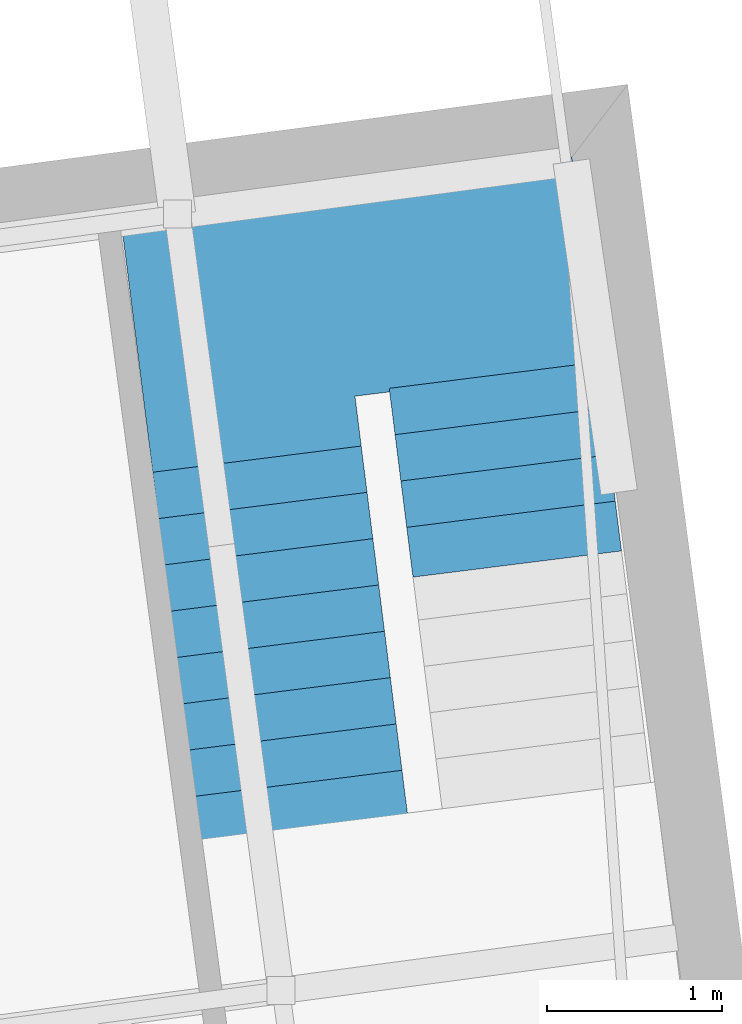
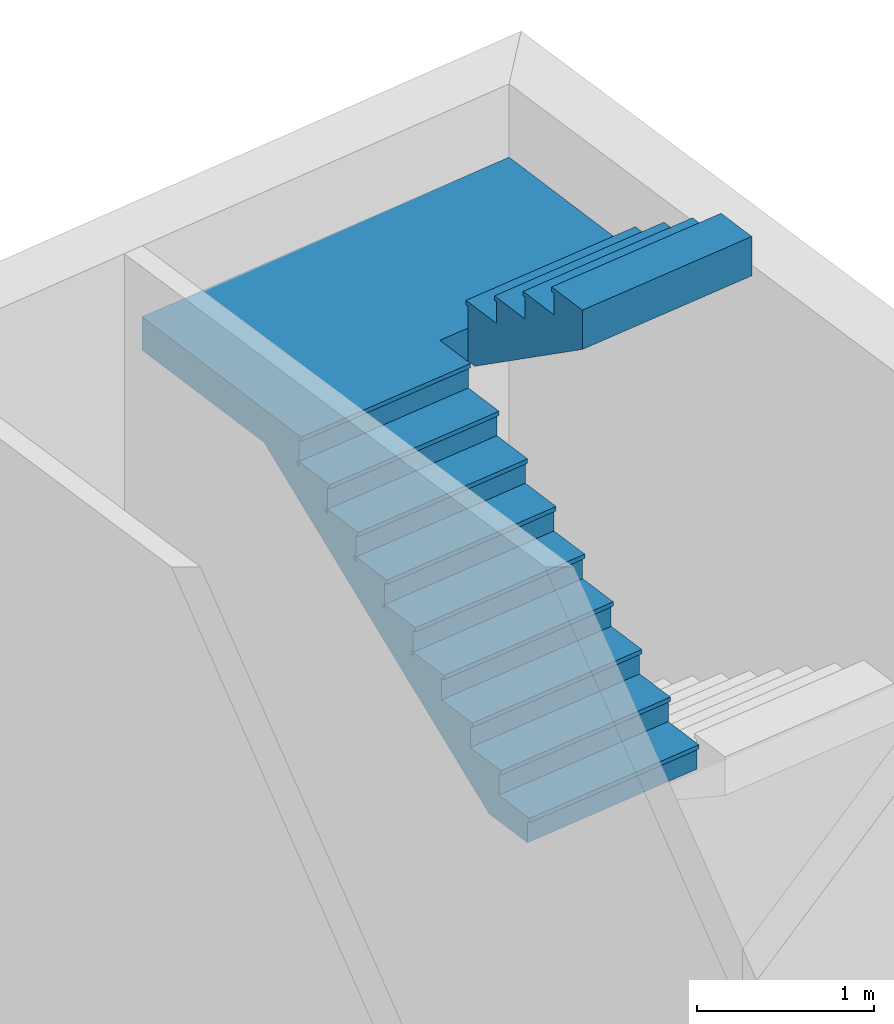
# One storey, part 38 of 40: 1 stair.
"""IFC2X3 building model written with IfcOpenShell, lengths in metres."""

from ifc_helpers import new_model, entity, si_unit, converted_unit, money_unit, direction, frame, origin_with_axes, place, context, subcontext, project, spatial, faceted_brep, material, element, save


model = new_model("IFC2X3")

# Units and contexts
model_context = context("Model", 3, precision=1e-05, world=origin_with_axes(), true_north=direction((0.0, 1.0)))
body_context = subcontext(model_context, "Body", "Model", "MODEL_VIEW")
ifc_project = project(units=[si_unit("LENGTHUNIT", "METRE"), si_unit("AREAUNIT", "SQUARE_METRE"), si_unit("VOLUMEUNIT", "CUBIC_METRE"), converted_unit("PLANEANGLEUNIT", "DEGREE", entity("IfcPlaneAngleMeasure", 0.0174532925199), si_unit("PLANEANGLEUNIT", "RADIAN"), dimensions=[0, 0, 0, 0, 0, 0, 0]), si_unit("SOLIDANGLEUNIT", "STERADIAN"), money_unit("EUR"), converted_unit("TIMEUNIT", "Year", entity("IfcTimeMeasure", 31556926.0), si_unit("TIMEUNIT", "SECOND"), dimensions=[0, 0, 0, 0, 0, 0, 0]), si_unit("MASSUNIT", "GRAM"), si_unit("THERMODYNAMICTEMPERATUREUNIT", "DEGREE_CELSIUS"), si_unit("LUMINOUSINTENSITYUNIT", "LUMEN")], contexts=[model_context])

# Site, building, storey
site_placement = place(None, origin_with_axes())
site = spatial("IfcSite", under=ifc_project, at=site_placement, Name="Undefined", CompositionType="ELEMENT")
building_placement = place(site_placement, origin_with_axes())
building = spatial("IfcBuilding", under=site, at=building_placement, Name="Undefined", CompositionType="ELEMENT")
storey_placement = place(building_placement, origin_with_axes())
storey = spatial("IfcBuildingStorey", under=building, at=storey_placement, Name="Rez de chauss\x8ee", CompositionType="ELEMENT", Elevation=0.0)

# Stair
ifc_material = material(Name="Concrete Block")
stair_placement = place(storey_placement, frame((64.8815616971, 23.589487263, 3.0), z_axis=(0.0, 0.0, 1.0), x_axis=(0.12477451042, -0.992185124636, 0.0)))
element("IfcStair", 1, at=stair_placement, inside=storey, material=ifc_material, Name="Stair_02", ObjectType="STAIR", ShapeType="NOTDEFINED", context=body_context, shape_type="Brep", body=[
    faceted_brep([(-0.358181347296, 0.0, 0.0), (-2.46103849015, 0.0, 1.38538461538), (-2.46103849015, 1.2, 1.38538461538), (-0.358181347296, 1.2, 0.0), (-0.02, 0.0, 0.0), (-0.02, 0.0, 0.149487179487), (-0.286666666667, 0.0, 0.149487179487), (-0.286666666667, 0.0, 0.328974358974), (-0.553333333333, 0.0, 0.328974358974), (-0.553333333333, 0.0, 0.508461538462), (-0.82, 0.0, 0.508461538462), (-0.82, 0.0, 0.687948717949), (-1.08666666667, 0.0, 0.687948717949), (-1.08666666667, 0.0, 0.867435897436), (-1.35333333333, 0.0, 0.867435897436), (-1.35333333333, 0.0, 1.04692307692), (-1.62, 0.0, 1.04692307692), (-1.62, 0.0, 1.22641025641), (-1.88666666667, 0.0, 1.22641025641), (-1.88666666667, 0.0, 1.4058974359), (-2.15333333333, 0.0, 1.4058974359), (-2.15333333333, 0.0, 1.58538461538), (-2.42, 0.0, 1.58538461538), (-3.6, 0.0, 1.58538461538), (-3.6, 0.0, 1.38538461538), (-3.6, 1.2, 1.38538461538), (-3.6, 1.2, 1.58538461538), (-2.42, 1.2, 1.58538461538), (-2.15333333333, 1.2, 1.58538461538), (-2.15333333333, 1.2, 1.4058974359), (-1.88666666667, 1.2, 1.4058974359), (-1.88666666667, 1.2, 1.22641025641), (-1.62, 1.2, 1.22641025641), (-1.62, 1.2, 1.04692307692), (-1.35333333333, 1.2, 1.04692307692), (-1.35333333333, 1.2, 0.867435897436), (-1.08666666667, 1.2, 0.867435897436), (-1.08666666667, 1.2, 0.687948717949), (-0.82, 1.2, 0.687948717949), (-0.82, 1.2, 0.508461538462), (-0.553333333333, 1.2, 0.508461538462), (-0.553333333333, 1.2, 0.328974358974), (-0.286666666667, 1.2, 0.328974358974), (-0.286666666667, 1.2, 0.149487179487), (-0.02, 1.2, 0.149487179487), (-0.02, 1.2, 0.0)], [[[0, 1, 2, 3]], [[0, 4, 5, 6, 7, 8, 9, 10, 11, 12, 13, 14, 15, 16, 17, 18, 19, 20, 21, 22, 23, 24, 1]], [[1, 24, 25, 2]], [[3, 2, 25, 26, 27, 28, 29, 30, 31, 32, 33, 34, 35, 36, 37, 38, 39, 40, 41, 42, 43, 44, 45]], [[4, 0, 3, 45]], [[5, 4, 45, 44]], [[6, 5, 44, 43]], [[7, 6, 43, 42]], [[8, 7, 42, 41]], [[9, 8, 41, 40]], [[10, 9, 40, 39]], [[11, 10, 39, 38]], [[12, 11, 38, 37]], [[13, 12, 37, 36]], [[14, 13, 36, 35]], [[15, 14, 35, 34]], [[16, 15, 34, 33]], [[17, 16, 33, 32]], [[18, 17, 32, 31]], [[19, 18, 31, 30]], [[20, 19, 30, 29]], [[21, 20, 29, 28]], [[22, 21, 28, 27]], [[23, 22, 27, 26]], [[24, 23, 26, 25]]]),
    faceted_brep([(-2.4, 1.2, 1.58538461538), (-2.4, 1.2, 1.38538461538), (-2.4, 1.4, 1.38538461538), (-2.4, 1.4, 1.58538461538), (-3.6, 1.2, 1.58538461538), (-3.6, 1.2, 1.38538461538), (-2.46103849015, 1.2, 1.38538461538), (-2.46103849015, 1.4, 1.38538461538), (-3.6, 1.4, 1.38538461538), (-3.6, 1.4, 1.58538461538)], [[[0, 1, 2, 3]], [[0, 4, 5, 6, 1]], [[1, 6, 7, 2]], [[3, 2, 7, 8, 9]], [[4, 0, 3, 9]], [[5, 4, 9, 8]], [[6, 5, 8, 7]]]),
    faceted_brep([(-2.4, 1.4, 1.58538461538), (-2.4, 1.4, 1.38538461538), (-2.4, 2.6, 1.38538461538), (-2.4, 2.6, 1.58538461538), (-3.6, 1.4, 1.58538461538), (-3.6, 1.4, 1.38538461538), (-3.6, 2.6, 1.38538461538), (-3.6, 2.6, 1.58538461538)], [[[0, 1, 2, 3]], [[0, 4, 5, 1]], [[1, 5, 6, 2]], [[3, 2, 6, 7]], [[4, 0, 3, 7]], [[5, 4, 7, 6]]]),
    faceted_brep([(-2.4, 1.4, 1.38538461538), (-2.4, 2.6, 1.38538461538), (-2.33896150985, 2.6, 1.38538461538), (-2.33896150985, 1.4, 1.38538461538), (-2.4, 1.4, 1.58538461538), (-2.4, 2.6, 1.58538461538), (-2.38, 2.6, 1.58538461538), (-2.38, 2.6, 1.76487179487), (-2.11333333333, 2.6, 1.76487179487), (-2.11333333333, 2.6, 1.94435897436), (-1.84666666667, 2.6, 1.94435897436), (-1.84666666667, 2.6, 2.12384615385), (-1.58, 2.6, 2.12384615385), (-1.58, 2.6, 2.30333333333), (-1.33333333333, 2.6, 2.30333333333), (-1.33333333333, 2.6, 2.06224973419), (-1.33333333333, 1.4, 2.06224973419), (-1.33333333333, 1.4, 2.30333333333), (-1.58, 1.4, 2.30333333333), (-1.58, 1.4, 2.12384615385), (-1.84666666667, 1.4, 2.12384615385), (-1.84666666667, 1.4, 1.94435897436), (-2.11333333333, 1.4, 1.94435897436), (-2.11333333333, 1.4, 1.76487179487), (-2.38, 1.4, 1.76487179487), (-2.38, 1.4, 1.58538461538)], [[[0, 1, 2, 3]], [[4, 5, 1, 0]], [[1, 5, 6, 7, 8, 9, 10, 11, 12, 13, 14, 15, 2]], [[3, 2, 15, 16]], [[0, 3, 16, 17, 18, 19, 20, 21, 22, 23, 24, 25, 4]], [[25, 6, 5, 4]], [[24, 7, 6, 25]], [[23, 8, 7, 24]], [[22, 9, 8, 23]], [[21, 10, 9, 22]], [[20, 11, 10, 21]], [[19, 12, 11, 20]], [[18, 13, 12, 19]], [[17, 14, 13, 18]], [[16, 15, 14, 17]]]),
    faceted_brep([(0.0, 0.0, 0.0), (-0.02, 0.0, 0.0), (-0.02, 1.2, 0.0), (0.0, 1.2, 0.0), (0.0, 0.0, 0.149487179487), (-0.02, 0.0, 0.149487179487), (-0.02, 1.2, 0.149487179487), (0.0, 1.2, 0.149487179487)], [[[0, 1, 2, 3]], [[0, 4, 5, 1]], [[1, 5, 6, 2]], [[3, 2, 6, 7]], [[4, 0, 3, 7]], [[5, 4, 7, 6]]]),
    faceted_brep([(-0.266666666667, 0.0, 0.179487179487), (-0.286666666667, 0.0, 0.179487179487), (-0.286666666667, 1.2, 0.179487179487), (-0.266666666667, 1.2, 0.179487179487), (-0.266666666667, 0.0, 0.328974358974), (-0.286666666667, 0.0, 0.328974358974), (-0.286666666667, 1.2, 0.328974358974), (-0.266666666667, 1.2, 0.328974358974)], [[[0, 1, 2, 3]], [[0, 4, 5, 1]], [[1, 5, 6, 2]], [[3, 2, 6, 7]], [[4, 0, 3, 7]], [[5, 4, 7, 6]]]),
    faceted_brep([(-0.533333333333, 0.0, 0.358974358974), (-0.553333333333, 0.0, 0.358974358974), (-0.553333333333, 1.2, 0.358974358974), (-0.533333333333, 1.2, 0.358974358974), (-0.533333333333, 0.0, 0.508461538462), (-0.553333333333, 0.0, 0.508461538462), (-0.553333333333, 1.2, 0.508461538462), (-0.533333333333, 1.2, 0.508461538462)], [[[0, 1, 2, 3]], [[0, 4, 5, 1]], [[1, 5, 6, 2]], [[3, 2, 6, 7]], [[4, 0, 3, 7]], [[5, 4, 7, 6]]]),
    faceted_brep([(-0.8, 0.0, 0.538461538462), (-0.82, 0.0, 0.538461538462), (-0.82, 1.2, 0.538461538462), (-0.8, 1.2, 0.538461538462), (-0.8, 0.0, 0.687948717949), (-0.82, 0.0, 0.687948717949), (-0.82, 1.2, 0.687948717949), (-0.8, 1.2, 0.687948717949)], [[[0, 1, 2, 3]], [[0, 4, 5, 1]], [[1, 5, 6, 2]], [[3, 2, 6, 7]], [[4, 0, 3, 7]], [[5, 4, 7, 6]]]),
    faceted_brep([(-1.06666666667, 0.0, 0.717948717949), (-1.08666666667, 0.0, 0.717948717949), (-1.08666666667, 1.2, 0.717948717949), (-1.06666666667, 1.2, 0.717948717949), (-1.06666666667, 0.0, 0.867435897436), (-1.08666666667, 0.0, 0.867435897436), (-1.08666666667, 1.2, 0.867435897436), (-1.06666666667, 1.2, 0.867435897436)], [[[0, 1, 2, 3]], [[0, 4, 5, 1]], [[1, 5, 6, 2]], [[3, 2, 6, 7]], [[4, 0, 3, 7]], [[5, 4, 7, 6]]]),
    faceted_brep([(-1.33333333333, 0.0, 0.897435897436), (-1.35333333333, 0.0, 0.897435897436), (-1.35333333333, 1.2, 0.897435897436), (-1.33333333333, 1.2, 0.897435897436), (-1.33333333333, 0.0, 1.04692307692), (-1.35333333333, 0.0, 1.04692307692), (-1.35333333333, 1.2, 1.04692307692), (-1.33333333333, 1.2, 1.04692307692)], [[[0, 1, 2, 3]], [[0, 4, 5, 1]], [[1, 5, 6, 2]], [[3, 2, 6, 7]], [[4, 0, 3, 7]], [[5, 4, 7, 6]]]),
    faceted_brep([(-1.6, 0.0, 1.07692307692), (-1.62, 0.0, 1.07692307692), (-1.62, 1.2, 1.07692307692), (-1.6, 1.2, 1.07692307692), (-1.6, 0.0, 1.22641025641), (-1.62, 0.0, 1.22641025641), (-1.62, 1.2, 1.22641025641), (-1.6, 1.2, 1.22641025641)], [[[0, 1, 2, 3]], [[0, 4, 5, 1]], [[1, 5, 6, 2]], [[3, 2, 6, 7]], [[4, 0, 3, 7]], [[5, 4, 7, 6]]]),
    faceted_brep([(-1.86666666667, 0.0, 1.25641025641), (-1.88666666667, 0.0, 1.25641025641), (-1.88666666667, 1.2, 1.25641025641), (-1.86666666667, 1.2, 1.25641025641), (-1.86666666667, 0.0, 1.4058974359), (-1.88666666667, 0.0, 1.4058974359), (-1.88666666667, 1.2, 1.4058974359), (-1.86666666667, 1.2, 1.4058974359)], [[[0, 1, 2, 3]], [[0, 4, 5, 1]], [[1, 5, 6, 2]], [[3, 2, 6, 7]], [[4, 0, 3, 7]], [[5, 4, 7, 6]]]),
    faceted_brep([(-2.13333333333, 0.0, 1.4358974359), (-2.15333333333, 0.0, 1.4358974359), (-2.15333333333, 1.2, 1.4358974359), (-2.13333333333, 1.2, 1.4358974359), (-2.13333333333, 0.0, 1.58538461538), (-2.15333333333, 0.0, 1.58538461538), (-2.15333333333, 1.2, 1.58538461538), (-2.13333333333, 1.2, 1.58538461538)], [[[0, 1, 2, 3]], [[0, 4, 5, 1]], [[1, 5, 6, 2]], [[3, 2, 6, 7]], [[4, 0, 3, 7]], [[5, 4, 7, 6]]]),
    faceted_brep([(-2.4, 1.4, 1.61538461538), (-2.4, 2.6, 1.61538461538), (-2.38, 2.6, 1.61538461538), (-2.38, 1.4, 1.61538461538), (-2.4, 1.4, 1.76487179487), (-2.4, 2.6, 1.76487179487), (-2.38, 2.6, 1.76487179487), (-2.38, 1.4, 1.76487179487)], [[[0, 1, 2, 3]], [[4, 5, 1, 0]], [[1, 5, 6, 2]], [[3, 2, 6, 7]], [[0, 3, 7, 4]], [[7, 6, 5, 4]]]),
    faceted_brep([(-2.13333333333, 1.4, 1.79487179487), (-2.13333333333, 2.6, 1.79487179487), (-2.11333333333, 2.6, 1.79487179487), (-2.11333333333, 1.4, 1.79487179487), (-2.13333333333, 1.4, 1.94435897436), (-2.13333333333, 2.6, 1.94435897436), (-2.11333333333, 2.6, 1.94435897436), (-2.11333333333, 1.4, 1.94435897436)], [[[0, 1, 2, 3]], [[4, 5, 1, 0]], [[1, 5, 6, 2]], [[3, 2, 6, 7]], [[0, 3, 7, 4]], [[7, 6, 5, 4]]]),
    faceted_brep([(-1.86666666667, 1.4, 1.97435897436), (-1.86666666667, 2.6, 1.97435897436), (-1.84666666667, 2.6, 1.97435897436), (-1.84666666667, 1.4, 1.97435897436), (-1.86666666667, 1.4, 2.12384615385), (-1.86666666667, 2.6, 2.12384615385), (-1.84666666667, 2.6, 2.12384615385), (-1.84666666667, 1.4, 2.12384615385)], [[[0, 1, 2, 3]], [[4, 5, 1, 0]], [[1, 5, 6, 2]], [[3, 2, 6, 7]], [[0, 3, 7, 4]], [[7, 6, 5, 4]]]),
    faceted_brep([(-1.6, 1.4, 2.15384615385), (-1.6, 2.6, 2.15384615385), (-1.58, 2.6, 2.15384615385), (-1.58, 1.4, 2.15384615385), (-1.6, 1.4, 2.30333333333), (-1.6, 2.6, 2.30333333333), (-1.58, 2.6, 2.30333333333), (-1.58, 1.4, 2.30333333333)], [[[0, 1, 2, 3]], [[4, 5, 1, 0]], [[1, 5, 6, 2]], [[3, 2, 6, 7]], [[0, 3, 7, 4]], [[7, 6, 5, 4]]]),
    faceted_brep([(0.02, 0.0, 0.149487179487), (-0.286666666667, 0.0, 0.149487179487), (-0.286666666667, 1.2, 0.149487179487), (0.02, 1.2, 0.149487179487), (0.02, 0.0, 0.179487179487), (-0.286666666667, 0.0, 0.179487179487), (-0.286666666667, 1.2, 0.179487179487), (0.02, 1.2, 0.179487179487)], [[[0, 1, 2, 3]], [[0, 4, 5, 1]], [[1, 5, 6, 2]], [[3, 2, 6, 7]], [[4, 0, 3, 7]], [[5, 4, 7, 6]]]),
    faceted_brep([(-0.246666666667, 0.0, 0.328974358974), (-0.553333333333, 0.0, 0.328974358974), (-0.553333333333, 1.2, 0.328974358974), (-0.246666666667, 1.2, 0.328974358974), (-0.246666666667, 0.0, 0.358974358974), (-0.553333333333, 0.0, 0.358974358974), (-0.553333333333, 1.2, 0.358974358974), (-0.246666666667, 1.2, 0.358974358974)], [[[0, 1, 2, 3]], [[0, 4, 5, 1]], [[1, 5, 6, 2]], [[3, 2, 6, 7]], [[4, 0, 3, 7]], [[5, 4, 7, 6]]]),
    faceted_brep([(-0.513333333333, 0.0, 0.508461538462), (-0.82, 0.0, 0.508461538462), (-0.82, 1.2, 0.508461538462), (-0.513333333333, 1.2, 0.508461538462), (-0.513333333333, 0.0, 0.538461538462), (-0.82, 0.0, 0.538461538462), (-0.82, 1.2, 0.538461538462), (-0.513333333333, 1.2, 0.538461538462)], [[[0, 1, 2, 3]], [[0, 4, 5, 1]], [[1, 5, 6, 2]], [[3, 2, 6, 7]], [[4, 0, 3, 7]], [[5, 4, 7, 6]]]),
    faceted_brep([(-0.78, 0.0, 0.687948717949), (-1.06666666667, 0.0, 0.687948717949), (-1.06666666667, 1.2, 0.687948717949), (-0.78, 1.2, 0.687948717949), (-0.78, 0.0, 0.717948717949), (-1.06666666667, 0.0, 0.717948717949), (-1.06666666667, 1.2, 0.717948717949), (-0.78, 1.2, 0.717948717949)], [[[0, 1, 2, 3]], [[0, 4, 5, 1]], [[1, 5, 6, 2]], [[3, 2, 6, 7]], [[4, 0, 3, 7]], [[5, 4, 7, 6]]]),
    faceted_brep([(-1.04666666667, 0.0, 0.867435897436), (-1.33333333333, 0.0, 0.867435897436), (-1.33333333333, 1.2, 0.867435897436), (-1.04666666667, 1.2, 0.867435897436), (-1.04666666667, 0.0, 0.897435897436), (-1.33333333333, 0.0, 0.897435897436), (-1.33333333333, 1.2, 0.897435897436), (-1.04666666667, 1.2, 0.897435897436)], [[[0, 1, 2, 3]], [[0, 4, 5, 1]], [[1, 5, 6, 2]], [[3, 2, 6, 7]], [[4, 0, 3, 7]], [[5, 4, 7, 6]]]),
    faceted_brep([(-1.31333333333, 0.0, 1.04692307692), (-1.6, 0.0, 1.04692307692), (-1.6, 1.2, 1.04692307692), (-1.31333333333, 1.2, 1.04692307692), (-1.31333333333, 0.0, 1.07692307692), (-1.6, 0.0, 1.07692307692), (-1.6, 1.2, 1.07692307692), (-1.31333333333, 1.2, 1.07692307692)], [[[0, 1, 2, 3]], [[0, 4, 5, 1]], [[1, 5, 6, 2]], [[3, 2, 6, 7]], [[4, 0, 3, 7]], [[5, 4, 7, 6]]]),
    faceted_brep([(-1.58, 0.0, 1.22641025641), (-1.86666666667, 0.0, 1.22641025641), (-1.86666666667, 1.2, 1.22641025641), (-1.58, 1.2, 1.22641025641), (-1.58, 0.0, 1.25641025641), (-1.86666666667, 0.0, 1.25641025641), (-1.86666666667, 1.2, 1.25641025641), (-1.58, 1.2, 1.25641025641)], [[[0, 1, 2, 3]], [[0, 4, 5, 1]], [[1, 5, 6, 2]], [[3, 2, 6, 7]], [[4, 0, 3, 7]], [[5, 4, 7, 6]]]),
    faceted_brep([(-1.84666666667, 0.0, 1.4058974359), (-2.13333333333, 0.0, 1.4058974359), (-2.13333333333, 1.2, 1.4058974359), (-1.84666666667, 1.2, 1.4058974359), (-1.84666666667, 0.0, 1.4358974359), (-2.13333333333, 0.0, 1.4358974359), (-2.13333333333, 1.2, 1.4358974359), (-1.84666666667, 1.2, 1.4358974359)], [[[0, 1, 2, 3]], [[0, 4, 5, 1]], [[1, 5, 6, 2]], [[3, 2, 6, 7]], [[4, 0, 3, 7]], [[5, 4, 7, 6]]]),
    faceted_brep([(-2.11333333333, 0.0, 1.58538461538), (-2.4, 0.0, 1.58538461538), (-2.4, 1.2, 1.58538461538), (-2.11333333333, 1.2, 1.58538461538), (-2.11333333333, 0.0, 1.61538461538), (-2.4, 0.0, 1.61538461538), (-2.4, 1.2, 1.61538461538), (-2.11333333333, 1.2, 1.61538461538)], [[[0, 1, 2, 3]], [[0, 4, 5, 1]], [[1, 5, 6, 2]], [[3, 2, 6, 7]], [[4, 0, 3, 7]], [[5, 4, 7, 6]]]),
    faceted_brep([(-3.6, 0.0, 1.58538461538), (-3.6, 0.0, 1.61538461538), (-3.6, 1.4, 1.61538461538), (-3.6, 1.4, 1.58538461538), (-2.4, 0.0, 1.58538461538), (-2.4, 0.0, 1.61538461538), (-2.4, 1.4, 1.61538461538), (-2.4, 1.4, 1.58538461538)], [[[0, 1, 2, 3]], [[0, 4, 5, 1]], [[1, 5, 6, 2]], [[3, 2, 6, 7]], [[4, 0, 3, 7]], [[5, 4, 7, 6]]]),
    faceted_brep([(-3.6, 1.4, 1.58538461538), (-3.6, 1.4, 1.61538461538), (-3.6, 2.6, 1.61538461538), (-3.6, 2.6, 1.58538461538), (-2.38, 1.4, 1.58538461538), (-2.38, 1.4, 1.61538461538), (-2.38, 2.6, 1.61538461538), (-2.38, 2.6, 1.58538461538)], [[[0, 1, 2, 3]], [[0, 4, 5, 1]], [[1, 5, 6, 2]], [[3, 2, 6, 7]], [[4, 0, 3, 7]], [[5, 4, 7, 6]]]),
    faceted_brep([(-2.42, 1.4, 1.76487179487), (-2.42, 2.6, 1.76487179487), (-2.11333333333, 2.6, 1.76487179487), (-2.11333333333, 1.4, 1.76487179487), (-2.42, 1.4, 1.79487179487), (-2.42, 2.6, 1.79487179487), (-2.11333333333, 2.6, 1.79487179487), (-2.11333333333, 1.4, 1.79487179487)], [[[0, 1, 2, 3]], [[4, 5, 1, 0]], [[1, 5, 6, 2]], [[3, 2, 6, 7]], [[0, 3, 7, 4]], [[7, 6, 5, 4]]]),
    faceted_brep([(-2.15333333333, 1.4, 1.94435897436), (-2.15333333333, 2.6, 1.94435897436), (-1.84666666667, 2.6, 1.94435897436), (-1.84666666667, 1.4, 1.94435897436), (-2.15333333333, 1.4, 1.97435897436), (-2.15333333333, 2.6, 1.97435897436), (-1.84666666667, 2.6, 1.97435897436), (-1.84666666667, 1.4, 1.97435897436)], [[[0, 1, 2, 3]], [[4, 5, 1, 0]], [[1, 5, 6, 2]], [[3, 2, 6, 7]], [[0, 3, 7, 4]], [[7, 6, 5, 4]]]),
    faceted_brep([(-1.88666666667, 1.4, 2.12384615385), (-1.88666666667, 2.6, 2.12384615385), (-1.58, 2.6, 2.12384615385), (-1.58, 1.4, 2.12384615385), (-1.88666666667, 1.4, 2.15384615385), (-1.88666666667, 2.6, 2.15384615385), (-1.58, 2.6, 2.15384615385), (-1.58, 1.4, 2.15384615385)], [[[0, 1, 2, 3]], [[4, 5, 1, 0]], [[1, 5, 6, 2]], [[3, 2, 6, 7]], [[0, 3, 7, 4]], [[7, 6, 5, 4]]]),
    faceted_brep([(-1.62, 1.4, 2.30333333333), (-1.62, 2.6, 2.30333333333), (-1.33333333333, 2.6, 2.30333333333), (-1.33333333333, 1.4, 2.30333333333), (-1.62, 1.4, 2.33333333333), (-1.62, 2.6, 2.33333333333), (-1.33333333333, 2.6, 2.33333333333), (-1.33333333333, 1.4, 2.33333333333)], [[[0, 1, 2, 3]], [[4, 5, 1, 0]], [[1, 5, 6, 2]], [[3, 2, 6, 7]], [[0, 3, 7, 4]], [[7, 6, 5, 4]]]),
])

save(model, "model.ifc")
